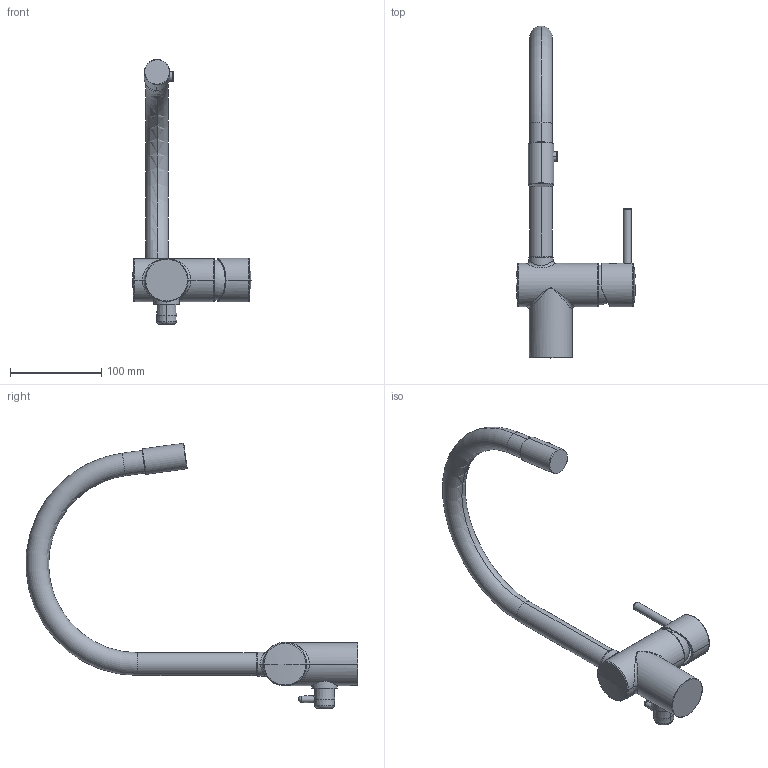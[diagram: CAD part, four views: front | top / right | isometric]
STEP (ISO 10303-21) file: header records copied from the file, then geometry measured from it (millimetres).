
FILE_DESCRIPTION((''),'2;1');
FILE_NAME('18140--00_SW0001','2026-09-10T12:27:51',('simi1'),(''),'CREO PARAMETRIC BY PTC INC, 2022244','CREO PARAMETRIC BY PTC INC, 2022244','');
FILE_SCHEMA(('AUTOMOTIVE_DESIGN { 1 0 10303 214 1 1 1 1 }'));
Length unit declared in the file: millimetre
Products named in the file (1): 18140--00_SW0001
Bounding box: 130.6 x 363.91 x 291.06 mm (x, y, z)
Surface area: 92267.6 mm2 (no closed solid volume)
Topology: 0 solids, 27 shells, 263 faces, 862 edges, 598 vertices
Faces by surface type: bspline 73, cylinder 60, torus 54, plane 35, sphere 25, cone 16
Entity records: 14481 total; most frequent: CARTESIAN_POINT 7493, DIRECTION 1494, ORIENTED_EDGE 1349, EDGE_CURVE 850, AXIS2_PLACEMENT_3D 684, VERTEX_POINT 598, CIRCLE 494, EDGE_LOOP 263
